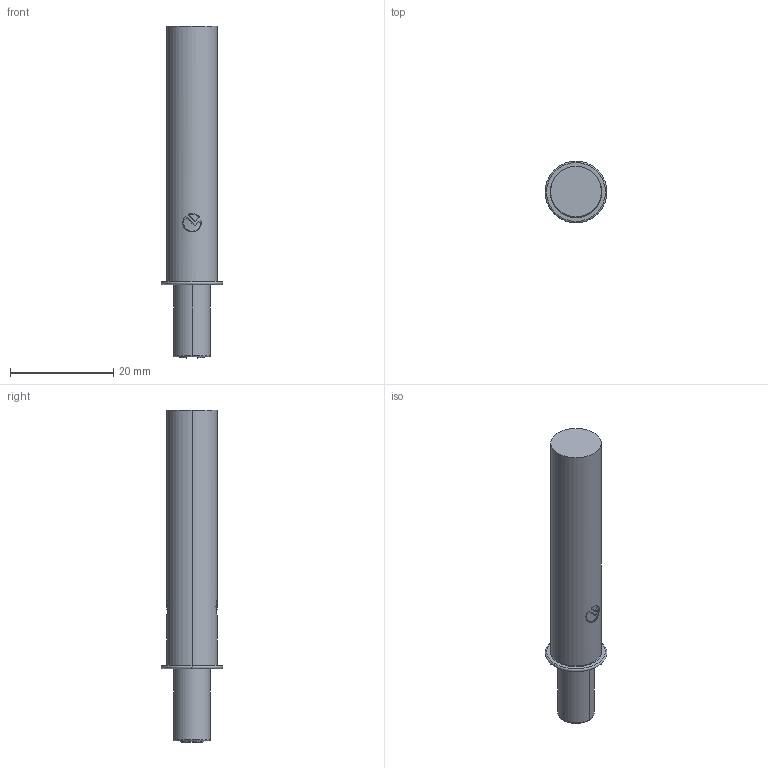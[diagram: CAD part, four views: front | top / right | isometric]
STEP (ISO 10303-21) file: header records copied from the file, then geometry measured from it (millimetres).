
FILE_DESCRIPTION((''),'2;1');
FILE_NAME('57002020_PRT','2020-09-16T17:29:05',('Luca.Carnelos'),(''),'CREO PARAMETRIC BY PTC INC, 2020154','CREO PARAMETRIC BY PTC INC, 2020154','');
FILE_SCHEMA(('CONFIG_CONTROL_DESIGN'));
Length unit declared in the file: millimetre
Products named in the file (1): 57002020_PRT
Bounding box: 12 x 12 x 64.3 mm (x, y, z)
Volume: 4375.9 mm3; surface area: 2090.4 mm2
Topology: 1 solids, 1 shells, 107 faces, 230 edges, 132 vertices
Faces by surface type: cylinder 39, bspline 25, plane 17, sphere 14, torus 12
Entity records: 7095 total; most frequent: CARTESIAN_POINT 4968, ORIENTED_EDGE 460, DIRECTION 381, EDGE_CURVE 230, AXIS2_PLACEMENT_3D 168, VERTEX_POINT 132, EDGE_LOOP 114, FACE_OUTER_BOUND 107
